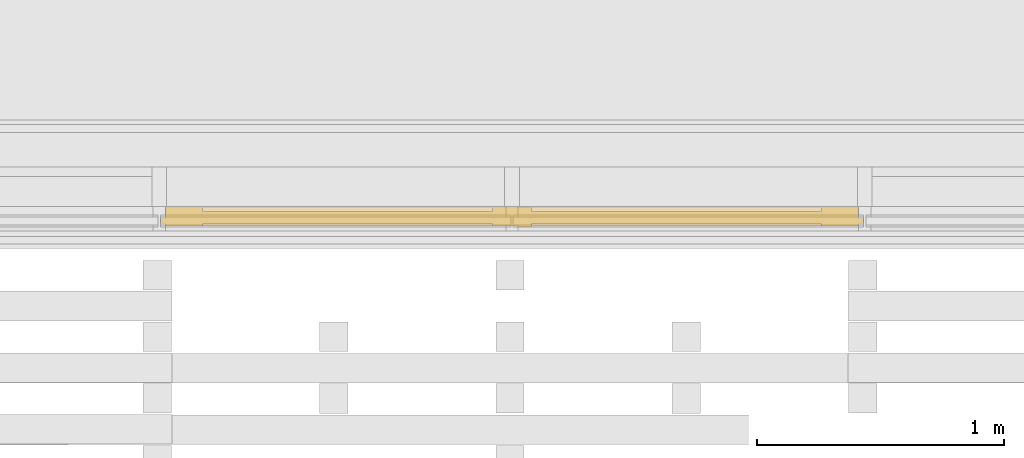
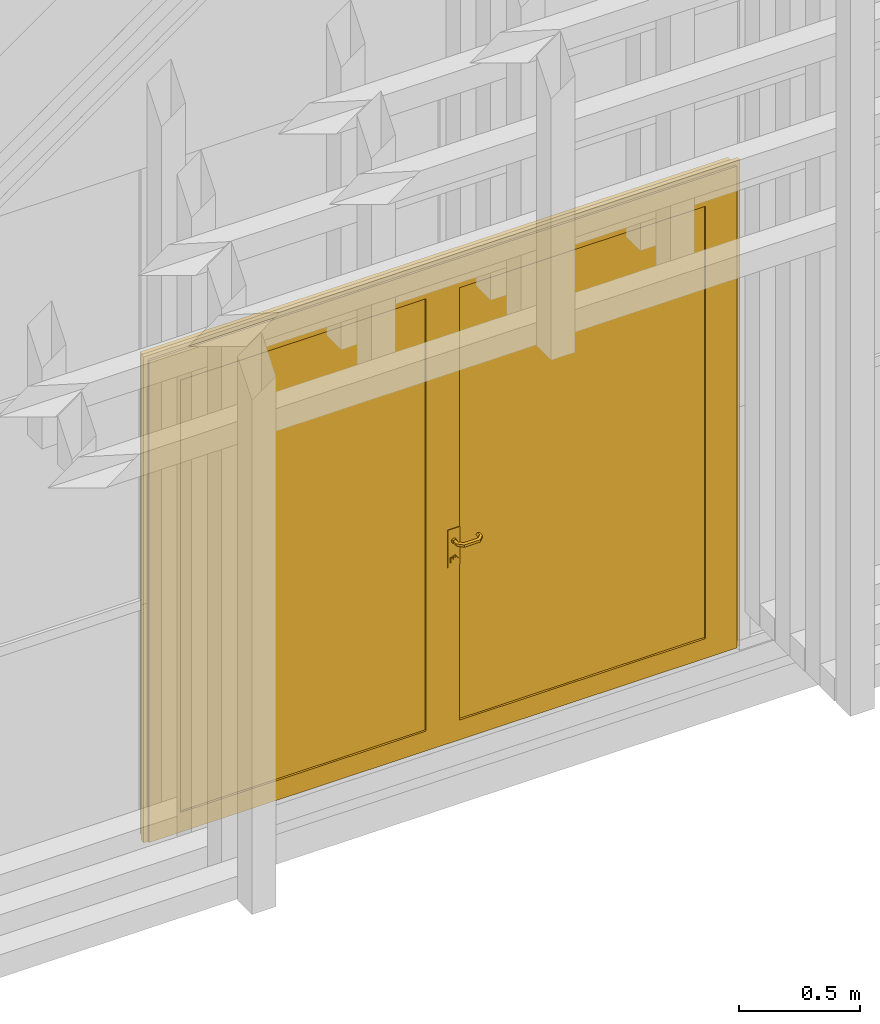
# One storey, part 244 of 260: 1 door, 1 element without a shape of its own.
"""IFC2X3 building model written with IfcOpenShell, lengths in millimetres."""

from ifc_helpers import new_model, entity, si_unit, converted_unit, derived_unit, money_unit, direction, frame, origin_with_axes, place, context, subcontext, project, spatial, open_shell, faceted_brep, surface_model, material, material_list, type_object, element, aggregate, save


model = new_model("IFC2X3")

# Units and contexts
model_context = context("Model", 3, precision=0.01, world=origin_with_axes(), true_north=direction((0.0, 1.0)))
body_context = subcontext(model_context, "Body", "Model", "MODEL_VIEW")
ifc_project = project(units=[si_unit("LENGTHUNIT", "METRE", prefix="MILLI"), si_unit("AREAUNIT", "SQUARE_METRE"), si_unit("VOLUMEUNIT", "CUBIC_METRE"), converted_unit("PLANEANGLEUNIT", "DEGREE", entity("IfcPlaneAngleMeasure", 0.0174532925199), si_unit("PLANEANGLEUNIT", "RADIAN"), dimensions=[0, 0, 0, 0, 0, 0, 0]), money_unit("EUR"), converted_unit("TIMEUNIT", "Year", entity("IfcTimeMeasure", 31556926.0), si_unit("TIMEUNIT", "SECOND"), dimensions=[0, 0, 1, 0, 0, 0, 0]), si_unit("MASSUNIT", "GRAM", prefix="KILO"), si_unit("THERMODYNAMICTEMPERATUREUNIT", "DEGREE_CELSIUS"), si_unit("LUMINOUSINTENSITYUNIT", "LUMEN"), si_unit("ENERGYUNIT", "JOULE", prefix="MEGA"), derived_unit("THERMALCONDUCTANCEUNIT", [(si_unit("POWERUNIT", "WATT"), 1), (si_unit("LENGTHUNIT", "METRE"), -1), (si_unit("THERMODYNAMICTEMPERATUREUNIT", "KELVIN"), -1)]), derived_unit("SPECIFICHEATCAPACITYUNIT", [(si_unit("ENERGYUNIT", "JOULE"), 1), (si_unit("MASSUNIT", "GRAM", prefix="KILO"), -1), (si_unit("THERMODYNAMICTEMPERATUREUNIT", "KELVIN"), -1)]), derived_unit("MASSDENSITYUNIT", [(si_unit("MASSUNIT", "GRAM", prefix="KILO"), 1), (si_unit("VOLUMEUNIT", "CUBIC_METRE"), -1)])], contexts=[model_context])

# Site, building, storey
site_placement = place(None, origin_with_axes())
site = spatial("IfcSite", under=ifc_project, at=site_placement, Name="Kolde pst 67a", CompositionType="ELEMENT")
building_placement = place(site_placement, origin_with_axes())
building = spatial("IfcBuilding", under=site, at=building_placement, Name="Riigigümnaasium", CompositionType="ELEMENT")
storey_placement = place(building_placement, origin_with_axes())
storey = spatial("IfcBuildingStorey", under=building, at=storey_placement, Name="1. korrus", CompositionType="ELEMENT", Elevation=0.0)

# Curtain wall, door
curtain_wall_type = type_object("IfcCurtainWallType", Name="Curtain Wall Type", PredefinedType="NOTDEFINED")
curtain_wall_placement = place(storey_placement, frame((20393.1746439, 47839.7660528, -0.000116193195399), z_axis=(0.0, 0.0, 1.0), x_axis=(1.0, 0.0, 0.0)))
curtain_wall = element("IfcCurtainWall", 1, at=curtain_wall_placement, inside=storey, type_object=curtain_wall_type, Name="KLAASFASSAAD")
ifc_material_1 = material(Name="_METALL - alumiinium")
ifc_material_2 = material(Name="_KLAAS - kirgas")
ifc_material_3 = material(Name="_METALL - roostevaba terasleht, harjatud, 1mm")
ifc_material_list = material_list([ifc_material_1, ifc_material_2, ifc_material_3])
door_style = type_object("IfcDoorStyle", Name="1425 x 1225 x 20", ConstructionType="NOTDEFINED", OperationType="DOUBLE_DOOR_SINGLE_SWING", ParameterTakesPrecedence=False, Sizeable=False)
door_placement = place(curtain_wall_placement, frame((-5005.0, 0.0, 1230.00007262), z_axis=(0.0, 0.0, 1.0), x_axis=(-1.0, 0.0, 0.0)))
door = element("IfcDoor", 2, at=door_placement, type_object=door_style, material=ifc_material_list, Name="Kahepoolne välisuks", ObjectType="DOOR", OverallHeight=2435.0, OverallWidth=2810.0, context=body_context, shape_type="SurfaceModel", body=[
    surface_model("IfcShellBasedSurfaceModel", [(1405.00001639, -55.0, -1230.00007262), (1405.00001639, -55.0, 1205.00003556), (1305.00001639, -55.0, 1105.00003556), (1305.00001639, -55.0, -1230.00007262)], [open_shell([[[0, 1, 2, 3]]])]),
    surface_model("IfcShellBasedSurfaceModel", [(-1405.00001639, -55.0, 1205.00003556), (-1305.00001639, -55.0, 1105.00003556), (1305.00001639, -55.0, 1105.00003556), (1405.00001639, -55.0, 1205.00003556)], [open_shell([[[0, 1, 2, 3]]])]),
    surface_model("IfcShellBasedSurfaceModel", [(-1405.00001639, -55.0, -1230.00007262), (-1305.00001639, -55.0, -1230.00007262), (-1305.00001639, -55.0, 1105.00003556), (-1405.00001639, -55.0, 1205.00003556)], [open_shell([[[0, 1, 2, 3]]])]),
    faceted_brep([(1405.00001639, -55.0, -1230.00007262), (1405.00001639, 20.0, -1230.00007262), (1405.00001639, 20.0, 1205.00003556), (1405.00001639, -55.0, 1205.00003556), (1335.00001639, -55.0, -1230.00007262), (1335.00001639, 20.0, -1230.00007262), (1335.00001639, 20.0, 1135.00003556), (1335.00001639, -55.0, 1135.00003556)], [[[0, 1, 2, 3]], [[4, 5, 1, 0]], [[1, 5, 6, 2]], [[3, 2, 6, 7]], [[0, 3, 7, 4]], [[7, 6, 5, 4]]]),
    faceted_brep([(-1405.00001639, -55.0, 1205.00003556), (-1405.00001639, 20.0, 1205.00003556), (-1335.00001639, 20.0, 1135.00003556), (-1335.00001639, -55.0, 1135.00003556), (1405.00001639, -55.0, 1205.00003556), (1405.00001639, 20.0, 1205.00003556), (1335.00001639, 20.0, 1135.00003556), (1335.00001639, -55.0, 1135.00003556)], [[[0, 1, 2, 3]], [[4, 5, 1, 0]], [[1, 5, 6, 2]], [[3, 2, 6, 7]], [[0, 3, 7, 4]], [[7, 6, 5, 4]]]),
    faceted_brep([(-1405.00001639, -55.0, -1230.00007262), (-1405.00001639, 20.0, -1230.00007262), (-1335.00001639, 20.0, -1230.00007262), (-1335.00001639, -55.0, -1230.00007262), (-1405.00001639, -55.0, 1205.00003556), (-1405.00001639, 20.0, 1205.00003556), (-1335.00001639, 20.0, 1135.00003556), (-1335.00001639, -55.0, 1135.00003556)], [[[0, 1, 2, 3]], [[4, 5, 1, 0]], [[1, 5, 6, 2]], [[3, 2, 6, 7]], [[0, 3, 7, 4]], [[7, 6, 5, 4]]]),
    faceted_brep([(1335.00001639, -55.0, -1230.00007262), (1335.00001639, 20.0, -1230.00007262), (1335.00001639, 20.0, -1210.00007262), (1335.00001639, -55.0, -1210.00007262), (-1335.00001639, -55.0, -1230.00007262), (-1335.00001639, 20.0, -1230.00007262), (-1335.00001639, 20.0, -1210.00007262), (-1335.00001639, -55.0, -1210.00007262)], [[[0, 1, 2, 3]], [[4, 5, 1, 0]], [[1, 5, 6, 2]], [[3, 2, 6, 7]], [[0, 3, 7, 4]], [[7, 6, 5, 4]]]),
    faceted_brep([(1425.00000328, -10.0, -1230.00007262), (1425.00000328, 10.0, -1230.00007262), (1425.00000328, 10.0, 1225.00002245), (1425.00000328, -10.0, 1225.00002245), (1405.00001639, -10.0, -1230.00007262), (1405.00001639, 10.0, -1230.00007262), (1405.00001639, 10.0, 1205.00003556), (1405.00001639, -10.0, 1205.00003556)], [[[0, 1, 2, 3]], [[4, 5, 1, 0]], [[1, 5, 6, 2]], [[3, 2, 6, 7]], [[0, 3, 7, 4]], [[7, 6, 5, 4]]]),
    faceted_brep([(1425.00000328, -10.0, 1225.00002245), (1425.00000328, 10.0, 1225.00002245), (-1425.00000328, 10.0, 1225.00002245), (-1425.00000328, -10.0, 1225.00002245), (1405.00001639, -10.0, 1205.00003556), (1405.00001639, 10.0, 1205.00003556), (-1405.00001639, 10.0, 1205.00003556), (-1405.00001639, -10.0, 1205.00003556)], [[[0, 1, 2, 3]], [[4, 5, 1, 0]], [[1, 5, 6, 2]], [[3, 2, 6, 7]], [[0, 3, 7, 4]], [[7, 6, 5, 4]]]),
    faceted_brep([(-1425.00000328, -10.0, 1225.00002245), (-1425.00000328, 10.0, 1225.00002245), (-1425.00000328, 10.0, -1230.00007262), (-1425.00000328, -10.0, -1230.00007262), (-1405.00001639, -10.0, 1205.00003556), (-1405.00001639, 10.0, 1205.00003556), (-1405.00001639, 10.0, -1230.00007262), (-1405.00001639, -10.0, -1230.00007262)], [[[0, 1, 2, 3]], [[4, 5, 1, 0]], [[1, 5, 6, 2]], [[3, 2, 6, 7]], [[0, 3, 7, 4]], [[7, 6, 5, 4]]]),
    faceted_brep([(-1255.00001639, -55.0, -1130.00007262), (-1255.00001639, 20.0, -1130.00007262), (-1255.00001639, 20.0, 1055.00003556), (-1255.00001639, -55.0, 1055.00003556), (-1335.00001639, -55.0, -1210.00007262), (-1335.00001639, 20.0, -1210.00007262), (-1335.00001639, 20.0, 1135.00003556), (-1335.00001639, -55.0, 1135.00003556)], [[[0, 1, 2, 3]], [[4, 5, 1, 0]], [[1, 5, 6, 2]], [[3, 2, 6, 7]], [[0, 3, 7, 4]], [[7, 6, 5, 4]]]),
    faceted_brep([(0.0, -55.0, -1210.00007262), (0.0, 20.0, -1210.00007262), (0.0, 20.0, 1135.00003556), (0.0, -55.0, 1135.00003556), (-80.0, -55.0, -1130.00007262), (-80.0, 20.0, -1130.00007262), (-80.0, 20.0, 1055.00003556), (-80.0, -55.0, 1055.00003556)], [[[0, 1, 2, 3]], [[4, 5, 1, 0]], [[1, 5, 6, 2]], [[3, 2, 6, 7]], [[0, 3, 7, 4]], [[7, 6, 5, 4]]]),
    faceted_brep([(0.0, -55.0, -1210.00007262), (0.0, 20.0, -1210.00007262), (-80.0, 20.0, -1130.00007262), (-80.0, -55.0, -1130.00007262), (-1335.00001639, -55.0, -1210.00007262), (-1335.00001639, 20.0, -1210.00007262), (-1255.00001639, 20.0, -1130.00007262), (-1255.00001639, -55.0, -1130.00007262)], [[[0, 1, 2, 3]], [[4, 5, 1, 0]], [[1, 5, 6, 2]], [[3, 2, 6, 7]], [[0, 3, 7, 4]], [[7, 6, 5, 4]]]),
    faceted_brep([(-1335.00001639, -55.0, 1135.00003556), (-1335.00001639, 20.0, 1135.00003556), (-1255.00001639, 20.0, 1055.00003556), (-1255.00001639, -55.0, 1055.00003556), (0.0, -55.0, 1135.00003556), (0.0, 20.0, 1135.00003556), (-80.0, 20.0, 1055.00003556), (-80.0, -55.0, 1055.00003556)], [[[0, 1, 2, 3]], [[4, 5, 1, 0]], [[1, 5, 6, 2]], [[3, 2, 6, 7]], [[0, 3, 7, 4]], [[7, 6, 5, 4]]]),
    faceted_brep([(-1255.00001639, -38.0, -1130.00007262), (-1255.00001639, 10.0, -1130.00007262), (-80.0, 10.0, -1130.00007262), (-80.0, -38.0, -1130.00007262), (-1255.00001639, -38.0, 1055.00003556), (-1255.00001639, 10.0, 1055.00003556), (-80.0, 10.0, 1055.00003556), (-80.0, -38.0, 1055.00003556)], [[[0, 1, 2, 3]], [[4, 5, 1, 0]], [[1, 5, 6, 2]], [[3, 2, 6, 7]], [[0, 3, 7, 4]], [[7, 6, 5, 4]]]),
    faceted_brep([(-21.5, 20.0, -150.000072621), (-21.5, 23.0, -150.000072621), (-78.5, 23.0, -150.000072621), (-78.5, 20.0, -150.000072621), (-21.5, 20.0, -340.000072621), (-21.5, 23.0, -340.000072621), (-78.5, 23.0, -340.000072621), (-78.5, 20.0, -340.000072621)], [[[0, 1, 2, 3]], [[4, 5, 1, 0]], [[1, 5, 6, 2]], [[3, 2, 6, 7]], [[0, 3, 7, 4]], [[7, 6, 5, 4]]]),
    faceted_brep([(-53.7082039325, 33.0, -221.412750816), (-54.0172209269, 23.0, -222.363807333), (-63.0, 23.0, -210.000072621), (-62.0, 33.0, -210.000072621), (-40.2917960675, 33.0, -217.053495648), (-39.4827790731, 23.0, -217.641280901), (-39.4827790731, 23.0, -202.358864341), (-54.0172209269, 23.0, -197.636337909), (-53.7082039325, 33.0, -198.587394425), (-40.2917960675, 33.0, -202.946649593)], [[[0, 1, 2, 3]], [[4, 5, 1, 0]], [[2, 1, 5, 6, 7]], [[3, 2, 7, 8]], [[3, 8, 9, 4, 0]], [[9, 6, 5, 4]], [[8, 7, 6, 9]]]),
    faceted_brep([(-56.1803398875, 27.0, -324.021202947), (-56.7983738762, 23.0, -325.923315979), (-72.0, 23.0, -305.000072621), (-70.0, 27.0, -305.000072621), (-33.8196601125, 27.0, -316.755777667), (-32.2016261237, 23.0, -317.931348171), (-32.2016261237, 23.0, -292.06879707), (-56.7983738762, 23.0, -284.076829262), (-56.1803398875, 27.0, -285.978942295), (-33.8196601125, 27.0, -293.244367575)], [[[0, 1, 2, 3]], [[4, 5, 1, 0]], [[2, 1, 5, 6, 7]], [[3, 2, 7, 8]], [[3, 8, 9, 4, 0]], [[9, 6, 5, 4]], [[8, 7, 6, 9]]]),
    faceted_brep([(-52.1631189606, 29.0, -302.657468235), (-52.472135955, 27.0, -303.608524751), (-58.0, 27.0, -296.000072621), (-57.0, 29.0, -296.000072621), (-44.3368810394, 29.0, -300.114569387), (-43.527864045, 27.0, -300.702354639), (-43.527864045, 27.0, -291.297790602), (-52.472135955, 27.0, -288.39162049), (-52.1631189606, 29.0, -289.342677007), (-44.3368810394, 29.0, -291.885575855)], [[[0, 1, 2, 3]], [[4, 5, 1, 0]], [[2, 1, 5, 6, 7]], [[3, 2, 7, 8]], [[3, 8, 9, 4, 0]], [[9, 6, 5, 4]], [[8, 7, 6, 9]]]),
    surface_model("IfcShellBasedSurfaceModel", [(-60.0, 33.0, -210.000072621), (-60.0, 48.8578643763, -210.000072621), (-53.0901699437, 51.7200096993, -219.510637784), (-53.0901699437, 33.0, -219.510637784), (-53.0901699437, 33.0, -200.489507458), (-53.0901699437, 51.7200096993, -200.489507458), (-74.1421356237, 63.0, -210.000072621), (-71.2799903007, 69.9098300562, -219.510637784), (-41.9098300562, 56.3510581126, -215.877925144), (-41.9098300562, 33.0, -215.877925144), (-41.9098300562, 33.0, -204.122220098), (-41.9098300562, 56.3510581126, -204.122220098), (-71.2799903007, 69.9098300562, -200.489507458), (-135.857864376, 63.0, -210.000072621), (-138.720009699, 69.9098300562, -219.510637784), (-66.6489418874, 81.0901699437, -215.877925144), (-66.6489418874, 81.0901699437, -204.122220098), (-138.720009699, 69.9098300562, -200.489507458), (-150.0, 48.8578643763, -210.000072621), (-156.909830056, 51.7200096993, -219.510637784), (-143.351058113, 81.0901699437, -215.877925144), (-143.351058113, 81.0901699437, -204.122220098), (-156.909830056, 51.7200096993, -200.489507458), (-150.0, 33.0, -210.000072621), (-156.909830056, 33.0, -219.510637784), (-168.090169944, 56.3510581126, -215.877925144), (-168.090169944, 56.3510581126, -204.122220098), (-156.909830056, 33.0, -200.489507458), (-168.090169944, 33.0, -204.122220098), (-168.090169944, 33.0, -215.877925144)], [open_shell([[[0, 1, 2, 3]], [[4, 5, 1, 0]], [[1, 6, 7, 2]], [[3, 2, 8, 9]], [[10, 11, 5, 4]], [[5, 12, 6, 1]], [[6, 13, 14, 7]], [[2, 7, 15, 8]], [[9, 8, 11, 10]], [[11, 16, 12, 5]], [[12, 17, 13, 6]], [[13, 18, 19, 14]], [[7, 14, 20, 15]], [[8, 15, 16, 11]], [[16, 21, 17, 12]], [[17, 22, 18, 13]], [[18, 23, 24, 19]], [[14, 19, 25, 20]], [[15, 20, 21, 16]], [[21, 26, 22, 17]], [[22, 27, 23, 18]], [[23, 27, 28, 29, 24]], [[19, 24, 29, 25]], [[20, 25, 26, 21]], [[26, 28, 27, 22]], [[25, 29, 28, 26]]])]),
    faceted_brep([(-21.5, -55.0, -150.000072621), (-78.5, -55.0, -150.000072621), (-78.5, -58.0, -150.000072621), (-21.5, -58.0, -150.000072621), (-21.5, -55.0, -340.000072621), (-78.5, -55.0, -340.000072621), (-78.5, -58.0, -340.000072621), (-21.5, -58.0, -340.000072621)], [[[0, 1, 2, 3]], [[0, 4, 5, 1]], [[1, 5, 6, 2]], [[3, 2, 6, 7]], [[4, 0, 3, 7]], [[5, 4, 7, 6]]]),
    faceted_brep([(-53.7082039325, -68.0, -221.412750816), (-62.0, -68.0, -210.000072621), (-63.0, -58.0, -210.000072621), (-54.0172209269, -58.0, -222.363807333), (-40.2917960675, -68.0, -217.053495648), (-40.2917960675, -68.0, -202.946649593), (-53.7082039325, -68.0, -198.587394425), (-54.0172209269, -58.0, -197.636337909), (-39.4827790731, -58.0, -202.358864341), (-39.4827790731, -58.0, -217.641280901)], [[[0, 1, 2, 3]], [[1, 0, 4, 5, 6]], [[1, 6, 7, 2]], [[2, 7, 8, 9, 3]], [[4, 0, 3, 9]], [[5, 4, 9, 8]], [[6, 5, 8, 7]]]),
    faceted_brep([(-56.1803398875, -62.0, -324.021202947), (-70.0, -62.0, -305.000072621), (-72.0, -58.0, -305.000072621), (-56.7983738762, -58.0, -325.923315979), (-33.8196601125, -62.0, -316.755777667), (-33.8196601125, -62.0, -293.244367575), (-56.1803398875, -62.0, -285.978942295), (-56.7983738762, -58.0, -284.076829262), (-32.2016261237, -58.0, -292.06879707), (-32.2016261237, -58.0, -317.931348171)], [[[0, 1, 2, 3]], [[1, 0, 4, 5, 6]], [[1, 6, 7, 2]], [[2, 7, 8, 9, 3]], [[4, 0, 3, 9]], [[5, 4, 9, 8]], [[6, 5, 8, 7]]]),
    faceted_brep([(-52.1631189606, -64.0, -302.657468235), (-57.0, -64.0, -296.000072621), (-58.0, -62.0, -296.000072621), (-52.472135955, -62.0, -303.608524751), (-44.3368810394, -64.0, -300.114569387), (-44.3368810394, -64.0, -291.885575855), (-52.1631189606, -64.0, -289.342677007), (-52.472135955, -62.0, -288.39162049), (-43.527864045, -62.0, -291.297790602), (-43.527864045, -62.0, -300.702354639)], [[[0, 1, 2, 3]], [[1, 0, 4, 5, 6]], [[1, 6, 7, 2]], [[2, 7, 8, 9, 3]], [[4, 0, 3, 9]], [[5, 4, 9, 8]], [[6, 5, 8, 7]]]),
    surface_model("IfcShellBasedSurfaceModel", [(-60.0, -68.0, -210.000072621), (-53.0901699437, -68.0, -219.510637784), (-53.0901699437, -86.7200096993, -219.510637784), (-60.0, -83.8578643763, -210.000072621), (-41.9098300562, -68.0, -215.877925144), (-41.9098300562, -91.3510581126, -215.877925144), (-71.2799903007, -104.909830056, -219.510637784), (-74.1421356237, -98.0, -210.000072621), (-53.0901699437, -68.0, -200.489507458), (-53.0901699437, -86.7200096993, -200.489507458), (-41.9098300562, -68.0, -204.122220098), (-41.9098300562, -91.3510581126, -204.122220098), (-66.6489418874, -116.090169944, -215.877925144), (-138.720009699, -104.909830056, -219.510637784), (-135.857864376, -98.0, -210.000072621), (-71.2799903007, -104.909830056, -200.489507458), (-66.6489418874, -116.090169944, -204.122220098), (-143.351058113, -116.090169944, -215.877925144), (-156.909830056, -86.7200096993, -219.510637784), (-150.0, -83.8578643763, -210.000072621), (-138.720009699, -104.909830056, -200.489507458), (-143.351058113, -116.090169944, -204.122220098), (-168.090169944, -91.3510581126, -215.877925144), (-156.909830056, -68.0, -219.510637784), (-150.0, -68.0, -210.000072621), (-156.909830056, -86.7200096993, -200.489507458), (-168.090169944, -91.3510581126, -204.122220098), (-168.090169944, -68.0, -215.877925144), (-168.090169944, -68.0, -204.122220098), (-156.909830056, -68.0, -200.489507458)], [open_shell([[[0, 1, 2, 3]], [[1, 4, 5, 2]], [[3, 2, 6, 7]], [[8, 0, 3, 9]], [[4, 10, 11, 5]], [[2, 5, 12, 6]], [[7, 6, 13, 14]], [[9, 3, 7, 15]], [[10, 8, 9, 11]], [[5, 11, 16, 12]], [[6, 12, 17, 13]], [[14, 13, 18, 19]], [[15, 7, 14, 20]], [[11, 9, 15, 16]], [[12, 16, 21, 17]], [[13, 17, 22, 18]], [[19, 18, 23, 24]], [[20, 14, 19, 25]], [[16, 15, 20, 21]], [[17, 21, 26, 22]], [[18, 22, 27, 23]], [[24, 23, 27, 28, 29]], [[25, 19, 24, 29]], [[21, 20, 25, 26]], [[22, 26, 28, 27]], [[26, 25, 29, 28]]])]),
    faceted_brep([(80.0, -55.0, -1130.00007262), (80.0, 20.0, -1130.00007262), (80.0, 20.0, 1055.00003556), (80.0, -55.0, 1055.00003556), (0.0, -55.0, -1210.00007262), (0.0, 20.0, -1210.00007262), (0.0, 20.0, 1135.00003556), (0.0, -55.0, 1135.00003556)], [[[0, 1, 2, 3]], [[4, 5, 1, 0]], [[1, 5, 6, 2]], [[3, 2, 6, 7]], [[0, 3, 7, 4]], [[7, 6, 5, 4]]]),
    faceted_brep([(1335.00001639, -55.0, -1210.00007262), (1335.00001639, 20.0, -1210.00007262), (1335.00001639, 20.0, 1135.00003556), (1335.00001639, -55.0, 1135.00003556), (1255.00001639, -55.0, -1130.00007262), (1255.00001639, 20.0, -1130.00007262), (1255.00001639, 20.0, 1055.00003556), (1255.00001639, -55.0, 1055.00003556)], [[[0, 1, 2, 3]], [[4, 5, 1, 0]], [[1, 5, 6, 2]], [[3, 2, 6, 7]], [[0, 3, 7, 4]], [[7, 6, 5, 4]]]),
    faceted_brep([(1335.00001639, -55.0, -1210.00007262), (1335.00001639, 20.0, -1210.00007262), (1255.00001639, 20.0, -1130.00007262), (1255.00001639, -55.0, -1130.00007262), (0.0, -55.0, -1210.00007262), (0.0, 20.0, -1210.00007262), (80.0, 20.0, -1130.00007262), (80.0, -55.0, -1130.00007262)], [[[0, 1, 2, 3]], [[4, 5, 1, 0]], [[1, 5, 6, 2]], [[3, 2, 6, 7]], [[0, 3, 7, 4]], [[7, 6, 5, 4]]]),
    faceted_brep([(0.0, -55.0, 1135.00003556), (0.0, 20.0, 1135.00003556), (80.0, 20.0, 1055.00003556), (80.0, -55.0, 1055.00003556), (1335.00001639, -55.0, 1135.00003556), (1335.00001639, 20.0, 1135.00003556), (1255.00001639, 20.0, 1055.00003556), (1255.00001639, -55.0, 1055.00003556)], [[[0, 1, 2, 3]], [[4, 5, 1, 0]], [[1, 5, 6, 2]], [[3, 2, 6, 7]], [[0, 3, 7, 4]], [[7, 6, 5, 4]]]),
    faceted_brep([(80.0, -38.0, -1130.00007262), (80.0, 10.0, -1130.00007262), (1255.00001639, 10.0, -1130.00007262), (1255.00001639, -38.0, -1130.00007262), (80.0, -38.0, 1055.00003556), (80.0, 10.0, 1055.00003556), (1255.00001639, 10.0, 1055.00003556), (1255.00001639, -38.0, 1055.00003556)], [[[0, 1, 2, 3]], [[4, 5, 1, 0]], [[1, 5, 6, 2]], [[3, 2, 6, 7]], [[0, 3, 7, 4]], [[7, 6, 5, 4]]]),
])
aggregate(curtain_wall, [door])

save(model, "model.ifc")
